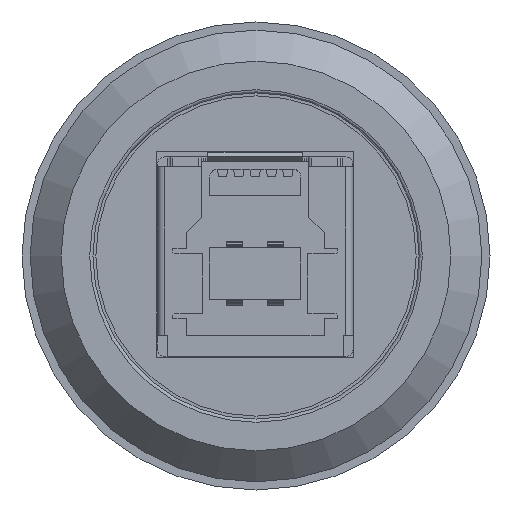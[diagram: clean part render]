
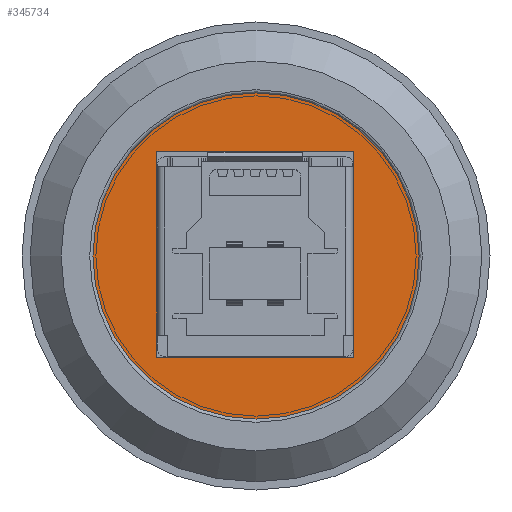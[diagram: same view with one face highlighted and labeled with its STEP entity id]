
A CAD part, front view. The second image highlights one B-rep face of the part: STEP entity #345734.
In plain terms, the highlighted planar face has unit normal (0, -1, 0).
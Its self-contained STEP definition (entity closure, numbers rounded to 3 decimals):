
#316449 = VERTEX_POINT('',#316450);
#316450 = CARTESIAN_POINT('',(10.,-17.5,0.));
#316456 = EDGE_CURVE('',#316449,#316449,#316457,.T.);
#316457 = CIRCLE('',#316458,10.);
#316458 = AXIS2_PLACEMENT_3D('',#316459,#316460,#316461);
#316459 = CARTESIAN_POINT('',(0.,-17.5,0.));
#316460 = DIRECTION('',(-0.,1.,0.));
#316461 = DIRECTION('',(1.,0.,0.));
#345734 = ADVANCED_FACE('',(#345735,#345738),#345772,.F.);
#345735 = FACE_BOUND('',#345736,.F.);
#345736 = EDGE_LOOP('',(#345737));
#345737 = ORIENTED_EDGE('',*,*,#316456,.T.);
#345738 = FACE_BOUND('',#345739,.F.);
#345739 = EDGE_LOOP('',(#345740,#345750,#345758,#345766));
#345740 = ORIENTED_EDGE('',*,*,#345741,.F.);
#345741 = EDGE_CURVE('',#345742,#345744,#345746,.T.);
#345742 = VERTEX_POINT('',#345743);
#345743 = CARTESIAN_POINT('',(-6.1,-17.5,6.4));
#345744 = VERTEX_POINT('',#345745);
#345745 = CARTESIAN_POINT('',(6.,-17.5,6.4));
#345746 = LINE('',#345747,#345748);
#345747 = CARTESIAN_POINT('',(-3.05,-17.5,6.4));
#345748 = VECTOR('',#345749,1.);
#345749 = DIRECTION('',(1.,0.,0.));
#345750 = ORIENTED_EDGE('',*,*,#345751,.T.);
#345751 = EDGE_CURVE('',#345742,#345752,#345754,.T.);
#345752 = VERTEX_POINT('',#345753);
#345753 = CARTESIAN_POINT('',(-6.1,-17.5,-6.2));
#345754 = LINE('',#345755,#345756);
#345755 = CARTESIAN_POINT('',(-6.1,-17.5,-3.1));
#345756 = VECTOR('',#345757,1.);
#345757 = DIRECTION('',(0.,0.,-1.));
#345758 = ORIENTED_EDGE('',*,*,#345759,.T.);
#345759 = EDGE_CURVE('',#345752,#345760,#345762,.T.);
#345760 = VERTEX_POINT('',#345761);
#345761 = CARTESIAN_POINT('',(6.,-17.5,-6.2));
#345762 = LINE('',#345763,#345764);
#345763 = CARTESIAN_POINT('',(-3.05,-17.5,-6.2));
#345764 = VECTOR('',#345765,1.);
#345765 = DIRECTION('',(1.,0.,0.));
#345766 = ORIENTED_EDGE('',*,*,#345767,.F.);
#345767 = EDGE_CURVE('',#345744,#345760,#345768,.T.);
#345768 = LINE('',#345769,#345770);
#345769 = CARTESIAN_POINT('',(6.,-17.5,-3.1));
#345770 = VECTOR('',#345771,1.);
#345771 = DIRECTION('',(0.,0.,-1.));
#345772 = PLANE('',#345773);
#345773 = AXIS2_PLACEMENT_3D('',#345774,#345775,#345776);
#345774 = CARTESIAN_POINT('',(0.,-17.5,0.));
#345775 = DIRECTION('',(0.,1.,0.));
#345776 = DIRECTION('',(1.,0.,0.));
